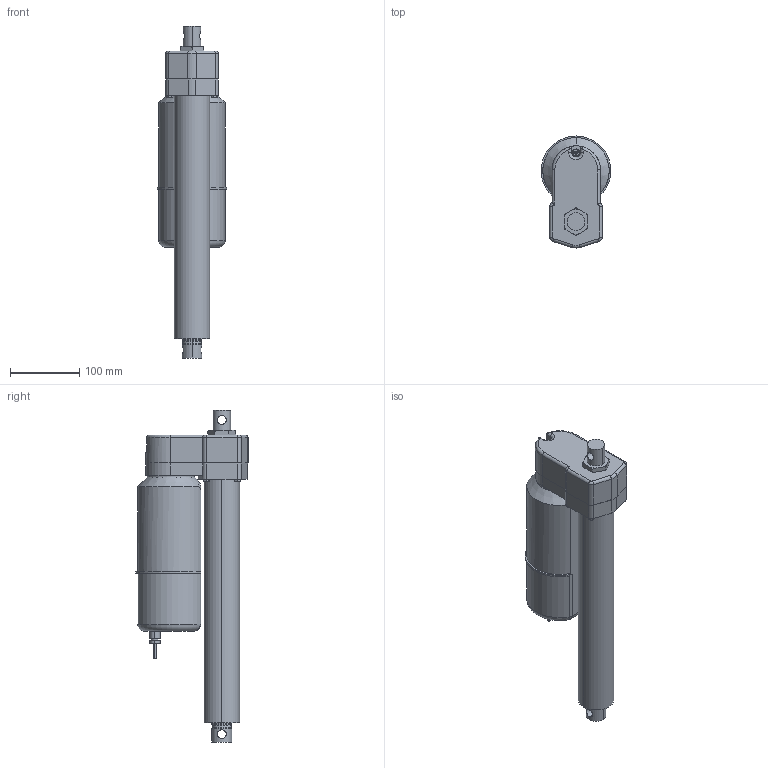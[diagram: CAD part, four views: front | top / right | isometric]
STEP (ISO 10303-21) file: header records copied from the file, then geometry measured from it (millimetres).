
FILE_DESCRIPTION (( 'STEP AP214' ), '1' );
FILE_NAME ('A42-05B5-10M0N-tollo.step', '2020-04-06T18:52:35', ( '' ), ( '' ), 'SwSTEP 2.0', 'SolidWorks 2010', '' );
FILE_SCHEMA (( 'AUTOMOTIVE_DESIGN' ));
Length unit declared in the file: millimetre
Products named in the file (7): Electrak-LA5-Motor-A42-05B5-10M0N-tollo_Electrak-LA5-Motor-A42-05B5-10M0N-tollo; Electrak-LA5-Rear-A42-05B5-10M0N-tollo_Electrak-LA5-Rear-A42-05B5-10M0N-tollo; Electrak-LA5-Tube-A42-05B5-10M0N-tollo_Electrak-LA5-Tube-A42-05B5-10M0N-tollo; Electrak-LA5-Rod-A42-05B5-10M0N-tollo_Electrak-LA5-Rod-A42-05B5-10M0N-tollo; Screw-MFX-H-M5-A42-05B5-10M0N-tollo_Screw-MFX-H-M5-A42-05B5-10M0N-tollo; Screw-M6S-M5-A42-05B5-10M0N-tollo_Screw-M6S-M5-A42-05B5-10M0N-tollo; A42-05B5-10M0N-tollo
Assembly tree (9 placements, depth 2):
  A42-05B5-10M0N-tollo
    Screw-M6S-M5-A42-05B5-10M0N-tollo_Screw-M6S-M5-A42-05B5-10M0N-tollo  x4
    Electrak-LA5-Motor-A42-05B5-10M0N-tollo_Electrak-LA5-Motor-A42-05B5-10M0N-tollo
    Electrak-LA5-Rod-A42-05B5-10M0N-tollo_Electrak-LA5-Rod-A42-05B5-10M0N-tollo
    Electrak-LA5-Rear-A42-05B5-10M0N-tollo_Electrak-LA5-Rear-A42-05B5-10M0N-tollo
    Electrak-LA5-Tube-A42-05B5-10M0N-tollo_Electrak-LA5-Tube-A42-05B5-10M0N-tollo
    Screw-MFX-H-M5-A42-05B5-10M0N-tollo_Screw-MFX-H-M5-A42-05B5-10M0N-tollo
Bounding box: 100.99 x 162.5 x 480.6 mm (x, y, z)
Volume: 2880035.6 mm3; surface area: 267773.4 mm2
Topology: 9 solids, 9 shells, 308 faces, 717 edges, 445 vertices
Faces by surface type: cylinder 134, plane 95, cone 58, torus 16, bspline 3, sphere 2
Entity records: 7472 total; most frequent: CARTESIAN_POINT 2010, DIRECTION 1127, ORIENTED_EDGE 994, EDGE_CURVE 497, AXIS2_PLACEMENT_3D 455, VERTEX_POINT 310, EDGE_LOOP 247, CIRCLE 231
